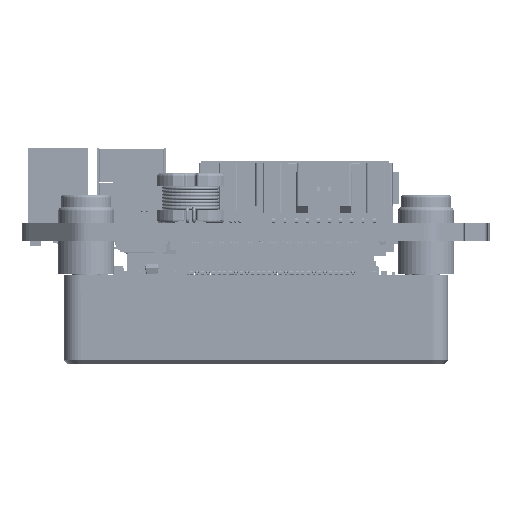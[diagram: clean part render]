
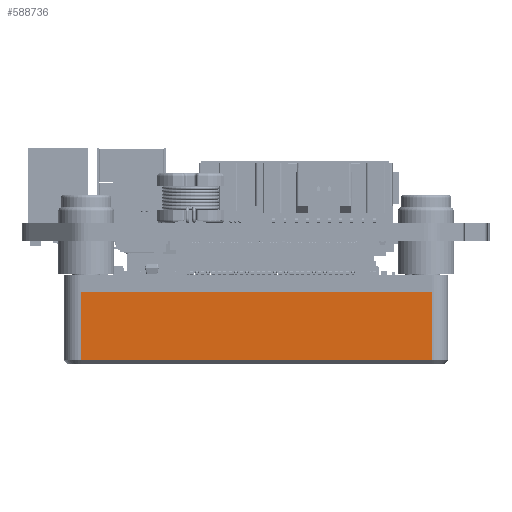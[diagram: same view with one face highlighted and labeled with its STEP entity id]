
A CAD part, front view. The second image highlights one B-rep face of the part: STEP entity #588736.
In plain terms, the highlighted planar face has unit normal (0, -1, 0) as drawn and (0, 0, 1) by its records, which use the part's own axes.
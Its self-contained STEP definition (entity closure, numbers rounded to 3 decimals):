
#588736 = ADVANCED_FACE('',(#588737),#588771,.F.);
#588737 = FACE_BOUND('',#588738,.T.);
#588738 = EDGE_LOOP('',(#588739,#588749,#588757,#588765));
#588739 = ORIENTED_EDGE('',*,*,#588740,.T.);
#588740 = EDGE_CURVE('',#588741,#588743,#588745,.T.);
#588741 = VERTEX_POINT('',#588742);
#588742 = CARTESIAN_POINT('',(1.5,6.4,0.));
#588743 = VERTEX_POINT('',#588744);
#588744 = CARTESIAN_POINT('',(1.5,0.3,0.));
#588745 = LINE('',#588746,#588747);
#588746 = CARTESIAN_POINT('',(1.5,6.4,0.));
#588747 = VECTOR('',#588748,1.);
#588748 = DIRECTION('',(0.,-1.,0.));
#588749 = ORIENTED_EDGE('',*,*,#588750,.T.);
#588750 = EDGE_CURVE('',#588743,#588751,#588753,.T.);
#588751 = VERTEX_POINT('',#588752);
#588752 = CARTESIAN_POINT('',(33.,0.3,0.));
#588753 = LINE('',#588754,#588755);
#588754 = CARTESIAN_POINT('',(33.,0.3,0.));
#588755 = VECTOR('',#588756,1.);
#588756 = DIRECTION('',(1.,0.,0.));
#588757 = ORIENTED_EDGE('',*,*,#588758,.T.);
#588758 = EDGE_CURVE('',#588751,#588759,#588761,.T.);
#588759 = VERTEX_POINT('',#588760);
#588760 = CARTESIAN_POINT('',(33.,6.4,0.));
#588761 = LINE('',#588762,#588763);
#588762 = CARTESIAN_POINT('',(33.,6.4,0.));
#588763 = VECTOR('',#588764,1.);
#588764 = DIRECTION('',(0.,1.,0.));
#588765 = ORIENTED_EDGE('',*,*,#588766,.F.);
#588766 = EDGE_CURVE('',#588741,#588759,#588767,.T.);
#588767 = LINE('',#588768,#588769);
#588768 = CARTESIAN_POINT('',(0.,6.4,0.));
#588769 = VECTOR('',#588770,1.);
#588770 = DIRECTION('',(1.,0.,0.));
#588771 = PLANE('',#588772);
#588772 = AXIS2_PLACEMENT_3D('',#588773,#588774,#588775);
#588773 = CARTESIAN_POINT('',(0.,6.4,0.));
#588774 = DIRECTION('',(0.,0.,-1.));
#588775 = DIRECTION('',(-1.,0.,0.));
